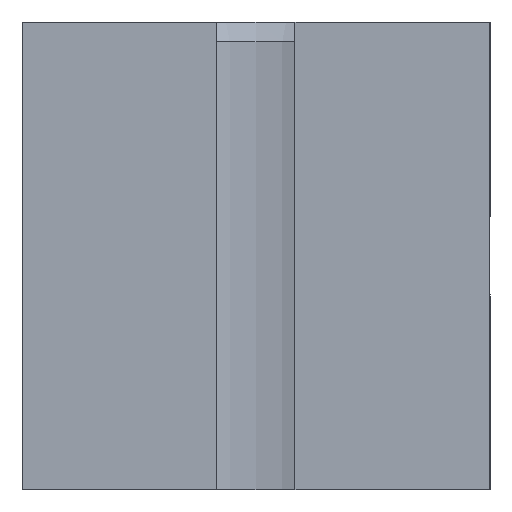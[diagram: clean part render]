
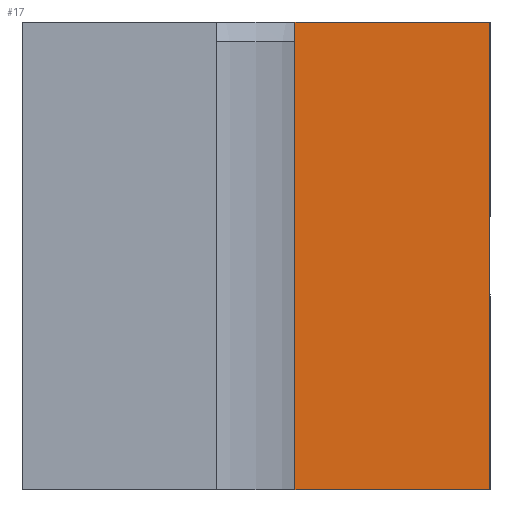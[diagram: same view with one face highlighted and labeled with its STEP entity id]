
A CAD part, left-side view. The second image highlights one B-rep face of the part: STEP entity #17.
In plain terms, the highlighted planar face has unit normal (-1, 0, 0).
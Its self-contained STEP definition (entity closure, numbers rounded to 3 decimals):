
#17 = ADVANCED_FACE('',(#18),#32,.F.);
#18 = FACE_BOUND('',#19,.T.);
#19 = EDGE_LOOP('',(#20,#55,#83,#111));
#20 = ORIENTED_EDGE('',*,*,#21,.F.);
#21 = EDGE_CURVE('',#22,#24,#26,.T.);
#22 = VERTEX_POINT('',#23);
#23 = CARTESIAN_POINT('',(-20.5,-1.,-6.));
#24 = VERTEX_POINT('',#25);
#25 = CARTESIAN_POINT('',(-20.5,-1.,6.));
#26 = SURFACE_CURVE('',#27,(#31,#43),.PCURVE_S1.);
#27 = LINE('',#28,#29);
#28 = CARTESIAN_POINT('',(-20.5,-1.,6.));
#29 = VECTOR('',#30,1.);
#30 = DIRECTION('',(0.,0.,1.));
#31 = PCURVE('',#32,#37);
#32 = PLANE('',#33);
#33 = AXIS2_PLACEMENT_3D('',#34,#35,#36);
#34 = CARTESIAN_POINT('',(-20.5,-6.,6.));
#35 = DIRECTION('',(1.,0.,0.));
#36 = DIRECTION('',(0.,0.,-1.));
#37 = DEFINITIONAL_REPRESENTATION('',(#38),#42);
#38 = LINE('',#39,#40);
#39 = CARTESIAN_POINT('',(0.,5.));
#40 = VECTOR('',#41,1.);
#41 = DIRECTION('',(-1.,0.));
#42 = ( GEOMETRIC_REPRESENTATION_CONTEXT(2) 
PARAMETRIC_REPRESENTATION_CONTEXT() REPRESENTATION_CONTEXT('2D SPACE',''
  ) );
#43 = PCURVE('',#44,#49);
#44 = PLANE('',#45);
#45 = AXIS2_PLACEMENT_3D('',#46,#47,#48);
#46 = CARTESIAN_POINT('',(-6.5,-1.,-40.228));
#47 = DIRECTION('',(0.,1.,0.));
#48 = DIRECTION('',(0.,-0.,1.));
#49 = DEFINITIONAL_REPRESENTATION('',(#50),#54);
#50 = LINE('',#51,#52);
#51 = CARTESIAN_POINT('',(46.228,-14.));
#52 = VECTOR('',#53,1.);
#53 = DIRECTION('',(1.,0.));
#54 = ( GEOMETRIC_REPRESENTATION_CONTEXT(2) 
PARAMETRIC_REPRESENTATION_CONTEXT() REPRESENTATION_CONTEXT('2D SPACE',''
  ) );
#55 = ORIENTED_EDGE('',*,*,#56,.F.);
#56 = EDGE_CURVE('',#57,#22,#59,.T.);
#57 = VERTEX_POINT('',#58);
#58 = CARTESIAN_POINT('',(-20.5,-6.,-6.));
#59 = SURFACE_CURVE('',#60,(#64,#71),.PCURVE_S1.);
#60 = LINE('',#61,#62);
#61 = CARTESIAN_POINT('',(-20.5,-6.,-6.));
#62 = VECTOR('',#63,1.);
#63 = DIRECTION('',(0.,1.,0.));
#64 = PCURVE('',#32,#65);
#65 = DEFINITIONAL_REPRESENTATION('',(#66),#70);
#66 = LINE('',#67,#68);
#67 = CARTESIAN_POINT('',(12.,0.));
#68 = VECTOR('',#69,1.);
#69 = DIRECTION('',(0.,1.));
#70 = ( GEOMETRIC_REPRESENTATION_CONTEXT(2) 
PARAMETRIC_REPRESENTATION_CONTEXT() REPRESENTATION_CONTEXT('2D SPACE',''
  ) );
#71 = PCURVE('',#72,#77);
#72 = PLANE('',#73);
#73 = AXIS2_PLACEMENT_3D('',#74,#75,#76);
#74 = CARTESIAN_POINT('',(-20.5,-6.,-6.));
#75 = DIRECTION('',(0.,0.,1.));
#76 = DIRECTION('',(1.,0.,-0.));
#77 = DEFINITIONAL_REPRESENTATION('',(#78),#82);
#78 = LINE('',#79,#80);
#79 = CARTESIAN_POINT('',(0.,0.));
#80 = VECTOR('',#81,1.);
#81 = DIRECTION('',(0.,1.));
#82 = ( GEOMETRIC_REPRESENTATION_CONTEXT(2) 
PARAMETRIC_REPRESENTATION_CONTEXT() REPRESENTATION_CONTEXT('2D SPACE',''
  ) );
#83 = ORIENTED_EDGE('',*,*,#84,.F.);
#84 = EDGE_CURVE('',#85,#57,#87,.T.);
#85 = VERTEX_POINT('',#86);
#86 = CARTESIAN_POINT('',(-20.5,-6.,6.));
#87 = SURFACE_CURVE('',#88,(#92,#99),.PCURVE_S1.);
#88 = LINE('',#89,#90);
#89 = CARTESIAN_POINT('',(-20.5,-6.,6.));
#90 = VECTOR('',#91,1.);
#91 = DIRECTION('',(0.,0.,-1.));
#92 = PCURVE('',#32,#93);
#93 = DEFINITIONAL_REPRESENTATION('',(#94),#98);
#94 = LINE('',#95,#96);
#95 = CARTESIAN_POINT('',(0.,0.));
#96 = VECTOR('',#97,1.);
#97 = DIRECTION('',(1.,0.));
#98 = ( GEOMETRIC_REPRESENTATION_CONTEXT(2) 
PARAMETRIC_REPRESENTATION_CONTEXT() REPRESENTATION_CONTEXT('2D SPACE',''
  ) );
#99 = PCURVE('',#100,#105);
#100 = PLANE('',#101);
#101 = AXIS2_PLACEMENT_3D('',#102,#103,#104);
#102 = CARTESIAN_POINT('',(0.,-6.,0.));
#103 = DIRECTION('',(0.,-1.,0.));
#104 = DIRECTION('',(0.,0.,-1.));
#105 = DEFINITIONAL_REPRESENTATION('',(#106),#110);
#106 = LINE('',#107,#108);
#107 = CARTESIAN_POINT('',(-6.,-20.5));
#108 = VECTOR('',#109,1.);
#109 = DIRECTION('',(1.,0.));
#110 = ( GEOMETRIC_REPRESENTATION_CONTEXT(2) 
PARAMETRIC_REPRESENTATION_CONTEXT() REPRESENTATION_CONTEXT('2D SPACE',''
  ) );
#111 = ORIENTED_EDGE('',*,*,#112,.T.);
#112 = EDGE_CURVE('',#85,#24,#113,.T.);
#113 = SURFACE_CURVE('',#114,(#118,#125),.PCURVE_S1.);
#114 = LINE('',#115,#116);
#115 = CARTESIAN_POINT('',(-20.5,-6.,6.));
#116 = VECTOR('',#117,1.);
#117 = DIRECTION('',(0.,1.,0.));
#118 = PCURVE('',#32,#119);
#119 = DEFINITIONAL_REPRESENTATION('',(#120),#124);
#120 = LINE('',#121,#122);
#121 = CARTESIAN_POINT('',(0.,0.));
#122 = VECTOR('',#123,1.);
#123 = DIRECTION('',(0.,1.));
#124 = ( GEOMETRIC_REPRESENTATION_CONTEXT(2) 
PARAMETRIC_REPRESENTATION_CONTEXT() REPRESENTATION_CONTEXT('2D SPACE',''
  ) );
#125 = PCURVE('',#126,#131);
#126 = PLANE('',#127);
#127 = AXIS2_PLACEMENT_3D('',#128,#129,#130);
#128 = CARTESIAN_POINT('',(20.5,-6.,6.));
#129 = DIRECTION('',(0.,0.,-1.));
#130 = DIRECTION('',(-1.,0.,0.));
#131 = DEFINITIONAL_REPRESENTATION('',(#132),#136);
#132 = LINE('',#133,#134);
#133 = CARTESIAN_POINT('',(41.,0.));
#134 = VECTOR('',#135,1.);
#135 = DIRECTION('',(0.,1.));
#136 = ( GEOMETRIC_REPRESENTATION_CONTEXT(2) 
PARAMETRIC_REPRESENTATION_CONTEXT() REPRESENTATION_CONTEXT('2D SPACE',''
  ) );
